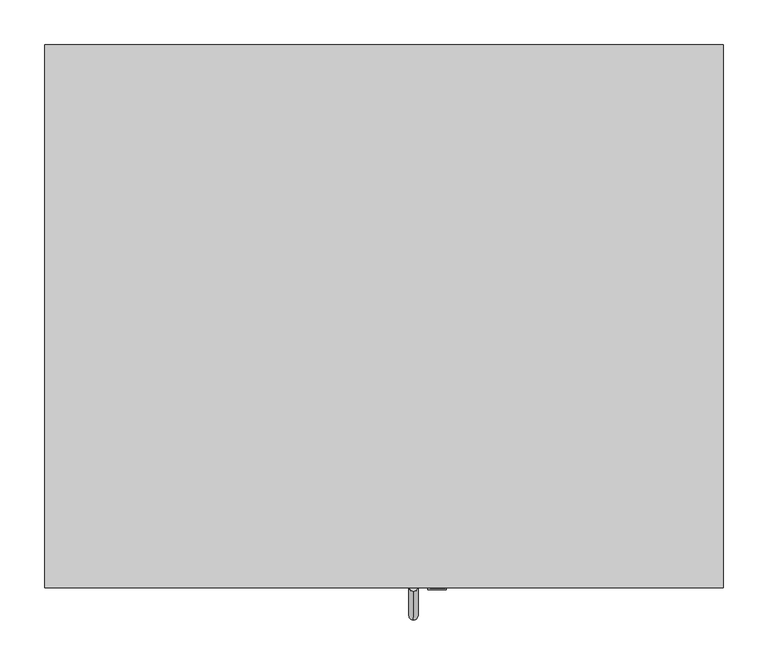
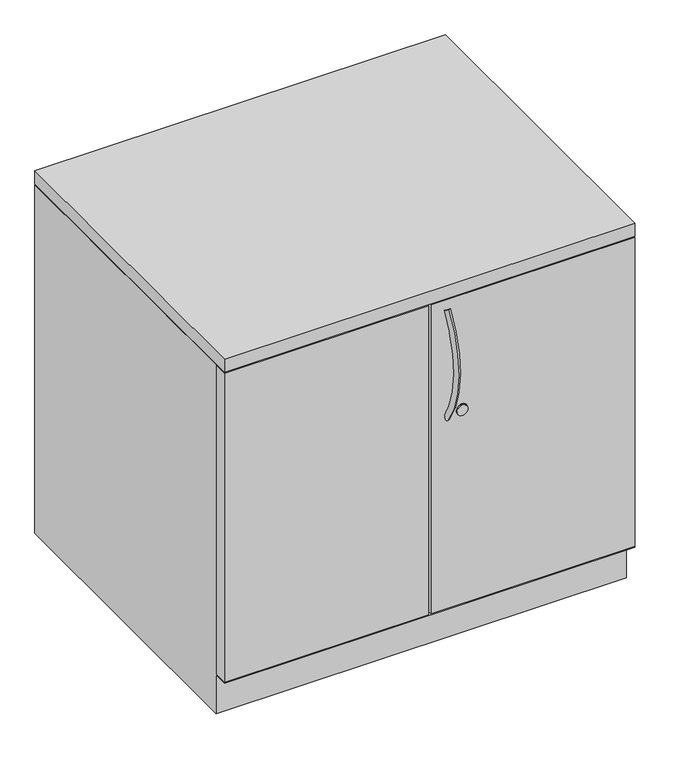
"""IFC4 building model written with IfcOpenShell, lengths in millimetres: furniture geometry, Steelcase - Universal Storage - Cabinet - Storage - 28H - Proud Steel : 23 1/8D x 30W."""

from ifc_helpers import new_model, si_unit, point, frame, frame_2d, origin, place, context, project, spatial, polyline, circle_curve, ellipse_curve, trimmed, segment, composite_curve, outline, extrude, faceted_brep, source, transform, mapped, element, save
from ifc_brep_helpers import plane_surface, revolved_surface, advanced_brep


def furniture_c09da147(model_context):
    return source(origin(), model_context, "Body", "SolidModel", [
        extrude(outline(polyline([(762.0, 0.0), (762.0, -609.6), (0.0, -609.6), (0.0, 0.0), (762.0, 0.0)])), frame((0.0, 0.0, 685.7999516), z_axis=(0.0, 0.0, 1.0), x_axis=(1.0, 0.0, 0.0)), (0.0, 0.0, 1.0), 25.4),
        extrude(outline(polyline([(0.0, -609.6), (0.0, -584.2008418), (378.46, -584.2008418), (378.46, -609.6), (0.0, -609.6)])), frame((0.0, 0.0, 77.724), z_axis=(0.0, 0.0, 1.0), x_axis=(1.0, 0.0, 0.0)), (0.0, 0.0, 1.0), 606.552),
        extrude(outline(polyline([(762.0, -584.2008418), (762.0, -609.6), (383.54, -609.6), (383.54, -584.2008418), (762.0, -584.2008418)])), frame((0.0, 0.0, 77.724), z_axis=(0.0, 0.0, 1.0), x_axis=(1.0, 0.0, 0.0)), (0.0, 0.0, 1.0), 606.552),
        extrude(outline(composite_curve([segment(trimmed(circle_curve(frame_2d((458.724, 440.5418131)), 10.16), [point((458.724, 450.7018131))], [point((458.724, 430.3818131))], False, "CARTESIAN"), True, "CONTINUOUS"), segment(trimmed(circle_curve(frame_2d((458.724, 440.5418131)), 10.16), [point((458.724, 430.3818131))], [point((458.724, 450.7018131))], False, "CARTESIAN"), True, "CONTINUOUS")], self_intersect=False)), frame((0.0, -612.013031, 0.0), z_axis=(0.0, 1.0, 0.0), x_axis=(0.0, 0.0, 1.0)), (0.0, 0.0, 1.0), 2.413031),
        advanced_brep(
        [(414.0783765, -605.0224318, 660.7416018), (414.0783765, -613.6221633, 666.4120503), (414.0783765, -602.5951581, 453.0151915), (414.0783765, -611.0600418, 447.1453437)],
        [
            (0, 1, circle_curve(frame((414.0783765, -609.3222976, 663.5768261), z_axis=(0.0, 0.5504787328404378, 0.83484918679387), x_axis=(0.0, -0.83484918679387, 0.5504787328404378)), 5.1504701)),
            (1, 0, circle_curve(frame((414.0783765, -609.3222976, 663.5768261), z_axis=(0.0, 0.5504787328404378, 0.83484918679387), x_axis=(0.0, -0.83484918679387, 0.5504787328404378)), 5.1504701)),
            (2, 3, circle_curve(frame((414.0783765, -606.8276, 450.0802676), z_axis=(0.0, 0.5698361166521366, -0.8217583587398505), x_axis=(0.0, -0.8217583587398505, -0.5698361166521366)), 5.1504701)),
            (3, 2, circle_curve(frame((414.0783765, -606.8276, 450.0802676), z_axis=(0.0, 0.5698361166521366, -0.8217583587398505), x_axis=(0.0, -0.8217583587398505, -0.5698361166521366)), 5.1504701)),
            (3, 1, circle_curve(frame((414.0783765, -450.226461, 558.6729992), z_axis=(-1.0, 0.0, 0.0), x_axis=(0.0, -0.83484918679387, 0.5504787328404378)), 195.7188256)),
            (0, 2, circle_curve(frame((414.0783765, -450.226461, 558.6729992), z_axis=(1.0, 0.0, 0.0), x_axis=(0.0, -0.83484918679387, 0.5504787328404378)), 185.4178854)),
        ],
        [
            plane_surface(frame((414.0783765, -609.3222976, 663.5768261), z_axis=(0.0, 0.5504787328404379, 0.83484918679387), x_axis=(-1.0, 0.0, 0.0))),
            plane_surface(frame((414.0783765, -606.8276, 450.0802676), z_axis=(0.0, 0.5698361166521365, -0.8217583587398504), x_axis=(-1.0, 0.0, 0.0))),
            revolved_surface(trimmed(ellipse_curve(frame((414.0783765, -609.3222976, 663.5768261), z_axis=(0.0, 0.5504787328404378, 0.83484918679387), x_axis=(0.0, -0.83484918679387, 0.5504787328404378)), 5.1504701, 5.1504701), [point((414.0783765, -605.0224318, 660.7416018))], [point((414.0783765, -613.6221633, 666.4120503))], True, "CARTESIAN"), (414.0783765, -450.226461, 558.6729992), (1.0, 0.0, 0.0)),
            revolved_surface(trimmed(ellipse_curve(frame((414.0783765, -609.3222976, 663.5768261), z_axis=(0.0, 0.5504787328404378, 0.83484918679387), x_axis=(0.0, -0.83484918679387, 0.5504787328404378)), 5.1504701, 5.1504701), [point((414.0783765, -613.6221633, 666.4120503))], [point((414.0783765, -605.0224318, 660.7416018))], True, "CARTESIAN"), (414.0783765, -450.226461, 558.6729992), (1.0, 0.0, 0.0)),
        ],
        [
            (0, [[1, 2]]),
            (1, [[3, 4]]),
            (2, [[5, -1, 6, -4]]),
            (3, [[-6, -2, -5, -3]]),
        ],
    ),
        extrude(outline(composite_curve([segment(trimmed(circle_curve(frame_2d((460.3889832, 440.8109835)), 9.7167829), [point((460.3889832, 450.5277664))], [point((460.3889832, 431.0942006))], False, "CARTESIAN"), True, "CONTINUOUS"), segment(trimmed(circle_curve(frame_2d((460.3889832, 440.8109835)), 9.7167829), [point((460.3889832, 431.0942006))], [point((460.3889832, 450.5277664))], False, "CARTESIAN"), True, "CONTINUOUS")], self_intersect=False)), frame((0.0, -610.2695275, 0.0), z_axis=(0.0, 1.0, 0.0), x_axis=(0.0, 0.0, 1.0)), (0.0, 0.0, 1.0), 0.6695275),
        faceted_brep([(762.0, 0.0, 0.0), (762.0, -582.6768432, 0.0), (0.0, -582.6768432, 0.0), (0.0, 0.0, 0.0), (0.0, 0.0, 684.276), (762.0, 0.0, 684.276), (0.0, -582.6768432, 76.2), (0.0, -609.6, 76.2), (0.0, -609.6, 77.724), (0.0, -582.6768432, 77.724), (0.0, -582.6768432, 684.276), (762.0, -582.6768432, 76.2), (762.0, -582.6768432, 684.276), (762.0, -582.6768432, 77.724), (762.0, -609.4738418, 77.724), (762.0, -609.6, 76.2), (736.6000242, -25.4000008, 684.276), (736.6000242, -582.6768432, 684.276), (25.3999758, -582.6768432, 684.276), (25.3999758, -25.4000008, 684.276), (736.6000242, -25.4000008, 77.724), (736.6000242, -582.6768432, 77.724), (25.3999758, -582.6768432, 77.724), (25.3999758, -25.4000008, 77.724), (4.6981334, -584.2008418, 77.724), (736.6000242, -584.2008418, 77.724)], [[[0, 1, 2, 3]], [[0, 3, 4, 5]], [[4, 3, 2, 6, 7, 8, 9, 10]], [[2, 1, 11, 6]], [[1, 0, 5, 12, 13, 14, 15, 11]], [[16, 17, 12, 5, 4, 10, 18, 19]], [[17, 16, 20, 21]], [[12, 17, 21, 13]], [[18, 10, 9, 22]], [[19, 18, 22, 23]], [[16, 19, 23, 20]], [[8, 24, 25, 14, 13, 21, 20, 23, 22, 9]], [[24, 8, 7]], [[25, 24, 7, 15]], [[14, 25, 15]], [[15, 7, 6, 11]]]),
    ])


if __name__ == "__main__":
    model = new_model("IFC4")
    model_context = context("Model", 3, world=origin())
    ifc_project = project(units=[si_unit("LENGTHUNIT", "METRE", prefix="MILLI")], contexts=[model_context])
    site = spatial("IfcSite", under=ifc_project)
    building = spatial("IfcBuilding", under=site)
    placement = place(None, origin())
    furniture_shape = furniture_c09da147(model_context)
    element("IfcFurniture", 1, ObjectType="Steelcase - Universal Storage - Cabinet - Storage - 28H - Proud Steel : 23 1/8D x 30W", at=placement, inside=building, context=model_context, shape_type="MappedRepresentation", body=[
        mapped(furniture_shape, transform((0.0, 0.0, 0.0), x_axis=(1.0, 0.0, 0.0), y_axis=(0.0, 1.0, 0.0), z_axis=(0.0, 0.0, 1.0))),
    ])
    save(model, "model.ifc")
